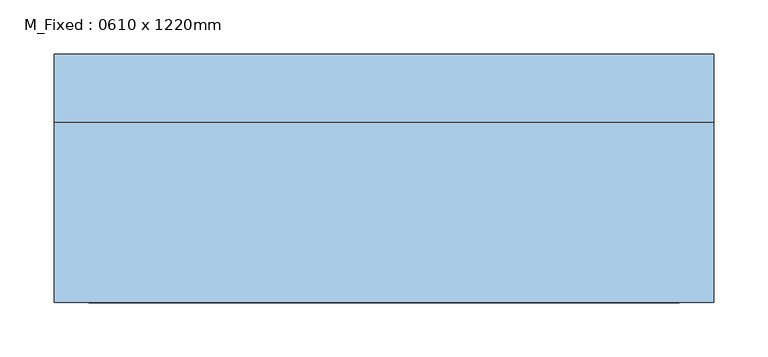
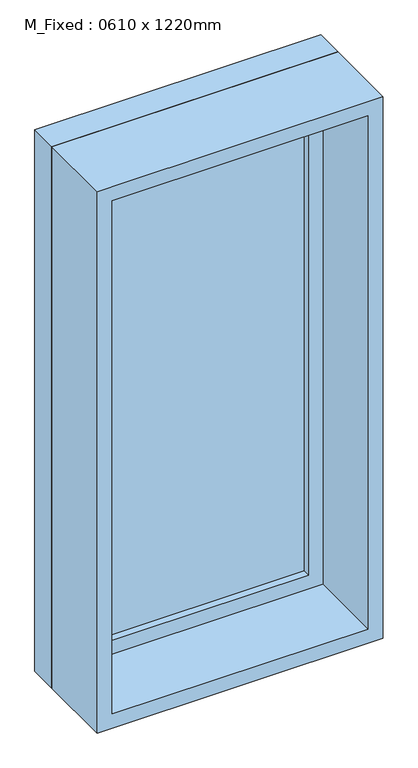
"""IFC4 building model written with IfcOpenShell, lengths in millimetres: window geometry, M_Fixed : 0610 x 1220mm."""

from ifc_helpers import new_model, si_unit, frame, origin, place, context, project, spatial, polyline, outline, extrude, source, transform, mapped, element, save


def m_fixed_0610_x_1220mm_cd310c26(model_context):
    return source(origin(), model_context, "Body", "SweptSolid", [
        extrude(outline(polyline([(-242.0, 93.0), (242.0, 93.0), (242.0, 81.0), (-242.0, 81.0), (-242.0, 93.0)])), frame((0.0, 0.0, 978.0), z_axis=(0.0, 0.0, 1.0), x_axis=(1.0, 0.0, 0.0)), (0.0, 0.0, 1.0), 1094.0),
        extrude(outline(polyline([(2116.0, -286.0), (934.0, -286.0), (934.0, 286.0), (2116.0, 286.0), (2116.0, -286.0)]), holes=[polyline([(2072.0, -242.0), (2072.0, 242.0), (978.0, 242.0), (978.0, -242.0), (2072.0, -242.0)])]), frame((0.0, 65.0, 0.0), z_axis=(0.0, 1.0, 0.0), x_axis=(0.0, 0.0, 1.0)), (0.0, 0.0, 1.0), 44.0),
        extrude(outline(polyline([(2135.0, -305.0), (915.0, -305.0), (915.0, 305.0), (2135.0, 305.0), (2135.0, -305.0)]), holes=[polyline([(2116.0, -286.0), (2116.0, 286.0), (934.0, 286.0), (934.0, -286.0), (2116.0, -286.0)])]), frame((0.0, 65.0, 0.0), z_axis=(0.0, 1.0, 0.0), x_axis=(0.0, 0.0, 1.0)), (0.0, 0.0, 1.0), 63.0),
        extrude(outline(polyline([(2135.0, -305.0), (915.0, -305.0), (915.0, 305.0), (2135.0, 305.0), (2135.0, -305.0)]), holes=[polyline([(2103.0, -273.0), (2103.0, 273.0), (947.0, 273.0), (947.0, -273.0), (2103.0, -273.0)])]), frame((0.0, -102.0, 0.0), z_axis=(0.0, 1.0, 0.0), x_axis=(0.0, 0.0, 1.0)), (0.0, 0.0, 1.0), 167.0),
    ])


if __name__ == "__main__":
    model = new_model("IFC4")
    model_context = context("Model", 3, world=origin())
    ifc_project = project(units=[si_unit("LENGTHUNIT", "METRE", prefix="MILLI")], contexts=[model_context])
    site = spatial("IfcSite", under=ifc_project)
    building = spatial("IfcBuilding", under=site)
    placement = place(None, origin())
    m_fixed_0610_x_1220mm_shape = m_fixed_0610_x_1220mm_cd310c26(model_context)
    element("IfcWindow", 1, ObjectType="M_Fixed : 0610 x 1220mm", at=placement, inside=building, context=model_context, shape_type="MappedRepresentation", body=[
        mapped(m_fixed_0610_x_1220mm_shape, transform((0.0, 0.0, 0.0), x_axis=(1.0, 0.0, 0.0), y_axis=(0.0, 1.0, 0.0), z_axis=(0.0, 0.0, 1.0))),
    ])
    save(model, "model.ifc")
